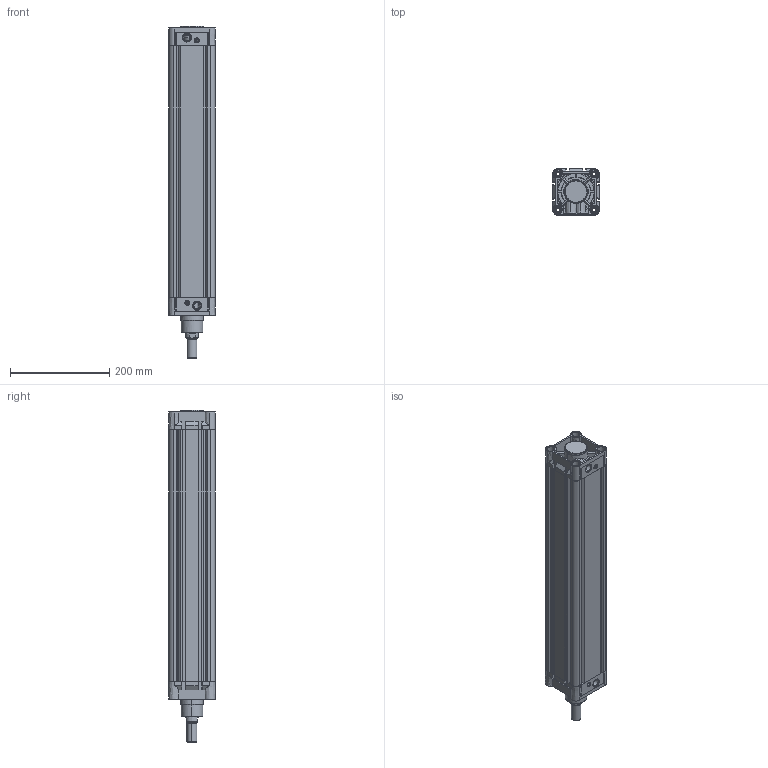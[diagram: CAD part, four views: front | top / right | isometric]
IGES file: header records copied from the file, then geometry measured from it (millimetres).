
Start section: SolidWorks IGES file using analytic representation for surfaces
Global section: file name: D:\ARICA 3D 禽Z軲LER\3D IGES\KDNC\KDNC80\KDNC80x450CYLINDER.IGS,1; native system: 5HSolidWorks 2013; preprocessor: SolidWorks 2013; author: user; date: 150303.171815; units: millimetre
Bounding box: 93 x 93.3 x 668 mm (x, y, z)
Surface area: 657757.6 mm2 (no closed solid volume)
Topology: 0 solids, 0 shells, 1060 faces, 16631 edges, 16621 vertices
Faces by surface type: revolution 604, bspline 456
